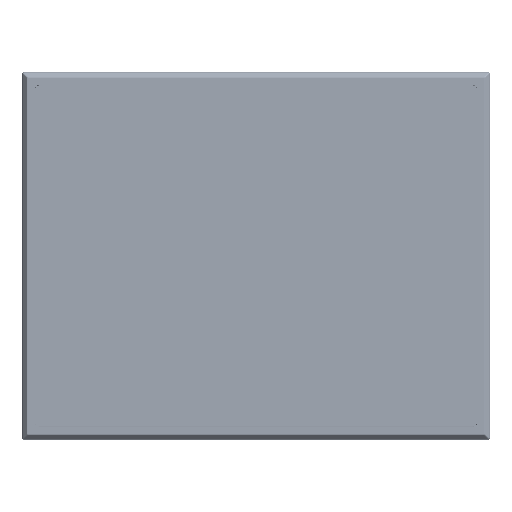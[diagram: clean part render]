
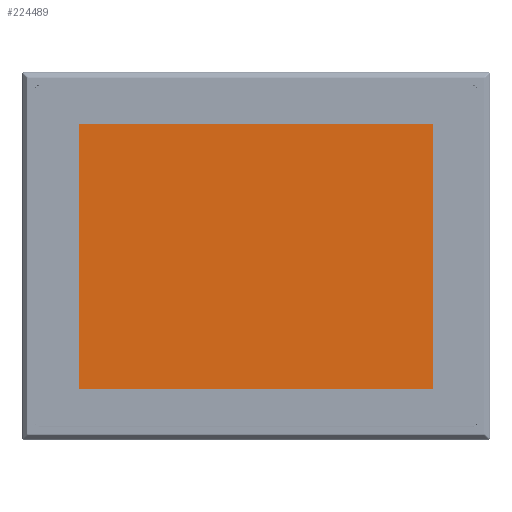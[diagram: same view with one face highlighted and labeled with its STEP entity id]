
A CAD part, top view. The second image highlights one B-rep face of the part: STEP entity #224489.
In plain terms, the highlighted planar face has unit normal (0, 0, 1) as drawn and (0, 1, 0) by its records, which use the part's own axes.
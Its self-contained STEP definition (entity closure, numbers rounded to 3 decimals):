
#8511 = VECTOR ( 'NONE', #266396, 1000. ) ;
#11540 = DIRECTION ( 'NONE',  ( 0., 0., 1. ) ) ;
#11808 = VERTEX_POINT ( 'NONE', #189737 ) ;
#15391 = AXIS2_PLACEMENT_3D ( 'NONE', #26895, #91560, #237726 ) ;
#26154 = EDGE_CURVE ( 'NONE', #62551, #11808, #186925, .T. ) ;
#26895 = CARTESIAN_POINT ( 'NONE',  ( 0., 1.65, 0. ) ) ;
#32268 = VERTEX_POINT ( 'NONE', #180934 ) ;
#57123 = DIRECTION ( 'NONE',  ( 0., 0., 1. ) ) ;
#60942 = ORIENTED_EDGE ( 'NONE', *, *, #264119, .F. ) ;
#62551 = VERTEX_POINT ( 'NONE', #207699 ) ;
#73521 = LINE ( 'NONE', #157568, #8511 ) ;
#80744 = CARTESIAN_POINT ( 'NONE',  ( 0., 1.65, 78.9 ) ) ;
#91560 = DIRECTION ( 'NONE',  ( 0., 1., 0. ) ) ;
#122384 = CARTESIAN_POINT ( 'NONE',  ( 106.05, 1.65, -79.5 ) ) ;
#131537 = EDGE_LOOP ( 'NONE', ( #60942, #264686, #136088, #266387 ) ) ;
#131550 = PLANE ( 'NONE',  #15391 ) ;
#136088 = ORIENTED_EDGE ( 'NONE', *, *, #270263, .T. ) ;
#136876 = CARTESIAN_POINT ( 'NONE',  ( -105.15, 1.65, 0. ) ) ;
#137603 = VECTOR ( 'NONE', #57123, 1000. ) ;
#139797 = CARTESIAN_POINT ( 'NONE',  ( 106.05, 1.65, 0. ) ) ;
#157568 = CARTESIAN_POINT ( 'NONE',  ( 0., 1.65, -79.5 ) ) ;
#160896 = VECTOR ( 'NONE', #226935, 1000. ) ;
#167177 = EDGE_CURVE ( 'NONE', #32268, #235859, #73521, .T. ) ;
#180934 = CARTESIAN_POINT ( 'NONE',  ( -105.15, 1.65, -79.5 ) ) ;
#186925 = LINE ( 'NONE', #80744, #160896 ) ;
#189737 = CARTESIAN_POINT ( 'NONE',  ( 106.05, 1.65, 78.9 ) ) ;
#200422 = LINE ( 'NONE', #136876, #262363 ) ;
#207699 = CARTESIAN_POINT ( 'NONE',  ( -105.15, 1.65, 78.9 ) ) ;
#224489 = ADVANCED_FACE ( 'NONE', ( #257037 ), #131550, .T. ) ;
#226935 = DIRECTION ( 'NONE',  ( 1., 0., 0. ) ) ;
#235859 = VERTEX_POINT ( 'NONE', #122384 ) ;
#237726 = DIRECTION ( 'NONE',  ( 0., 0., 1. ) ) ;
#245932 = LINE ( 'NONE', #139797, #137603 ) ;
#257037 = FACE_OUTER_BOUND ( 'NONE', #131537, .T. ) ;
#262363 = VECTOR ( 'NONE', #11540, 1000. ) ;
#264119 = EDGE_CURVE ( 'NONE', #235859, #11808, #245932, .T. ) ;
#264686 = ORIENTED_EDGE ( 'NONE', *, *, #167177, .F. ) ;
#266387 = ORIENTED_EDGE ( 'NONE', *, *, #26154, .T. ) ;
#266396 = DIRECTION ( 'NONE',  ( 1., 0., 0. ) ) ;
#270263 = EDGE_CURVE ( 'NONE', #32268, #62551, #200422, .T. ) ;
